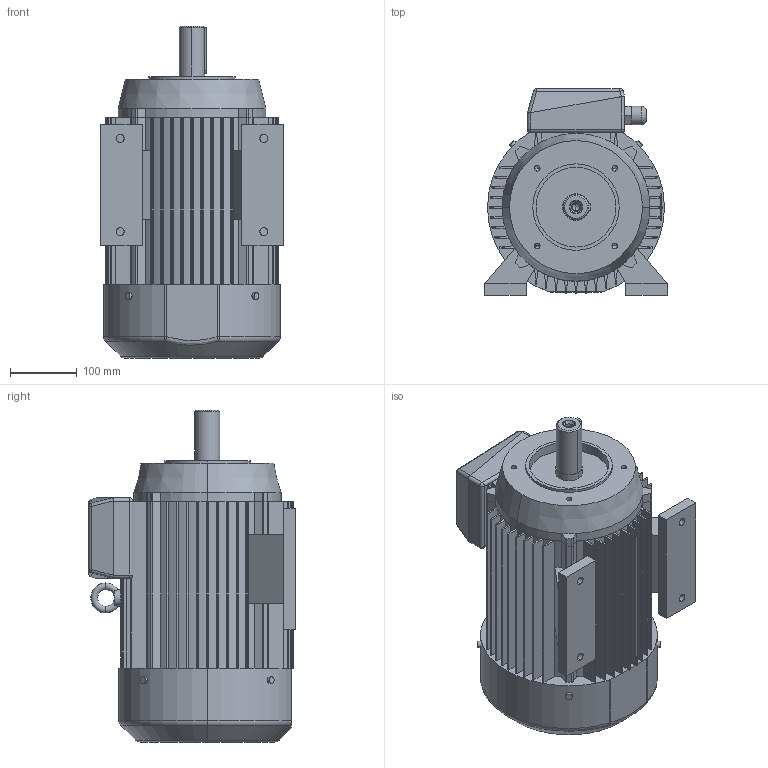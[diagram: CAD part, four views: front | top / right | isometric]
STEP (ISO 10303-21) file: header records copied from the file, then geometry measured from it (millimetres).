
FILE_DESCRIPTION (( 'STEP AP203' ), '1' );
FILE_NAME ('2SIEL132S2B,4-B34-C2.STEP', '2013-01-07T13:23:12', ( 'INDUKTA' ), ( 'CANTONI MOTOR' ), 'SwSTEP 2.0', 'SolidWorks 2003064', '' );
FILE_SCHEMA (( 'CONFIG_CONTROL_DESIGN' ));
Length unit declared in the file: millimetre
Products named in the file (1): 2SIEL132S2B,4-B34-C2
Bounding box: 274 x 310 x 499 mm (x, y, z)
Volume: 20301810.2 mm3; surface area: 1088569.5 mm2
Topology: 14 solids, 14 shells, 427 faces, 1120 edges, 703 vertices
Faces by surface type: cylinder 194, plane 187, cone 22, torus 13, sphere 10, bspline 1
Entity records: 13858 total; most frequent: CARTESIAN_POINT 3097, DIRECTION 2338, ORIENTED_EDGE 2200, EDGE_CURVE 1100, AXIS2_PLACEMENT_3D 848, VERTEX_POINT 703, LINE 642, VECTOR 642
